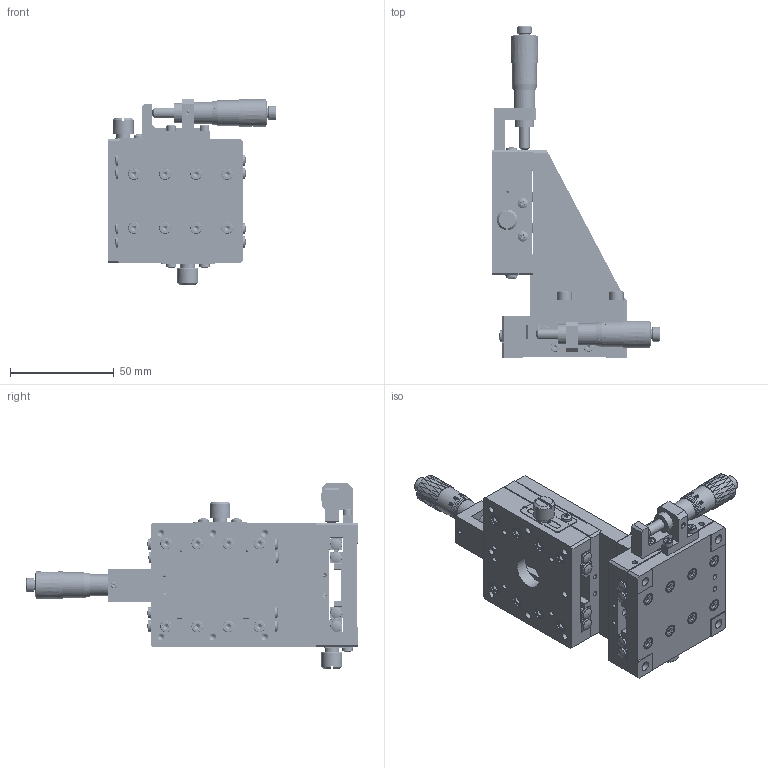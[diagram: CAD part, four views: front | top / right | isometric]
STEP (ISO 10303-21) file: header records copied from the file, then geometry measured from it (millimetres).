
FILE_DESCRIPTION (( 'STEP AP203' ), '1' );
FILE_NAME ('BVE60.STEP', '2024-07-23T12:55:25', ( 'Windows User' ), ( 'P R C' ), 'SwSTEP 2.0', 'SolidWorks 2024', '' );
FILE_SCHEMA (( 'CONFIG_CONTROL_DESIGN' ));
Products named in the file (1): BVE60
Bounding box: 81.1 x 160 x 89.4 mm (x, y, z)
Volume: 196366.2 mm3; surface area: 110810.2 mm2
Topology: 81 solids, 81 shells, 3890 faces, 9603 edges, 6151 vertices
Faces by surface type: plane 1816, bspline 806, cylinder 708, cone 508, torus 46, sphere 6
Full cylindrical faces by diameter (mm): 2 x44, 2.05 x24, 2.5 x38, 2.55 x32, 2.9 x2, 2.95 x18, 3 x38, 3.1 x4, 3.2 x3, 3.3 x24, 3.4 x32, 4 x8, 4.4 x32, 4.5 x22, 5 x10, 5.5 x34, 5.8 x2, 6 x32, 7 x12, 7.7 x4, 8 x8, 8.5 x2, 9.5 x4, 10 x2, 10.5 x2, 12.2 x2, 15 x2
Entity records: 172616 total; most frequent: CARTESIAN_POINT 92435, ORIENTED_EDGE 17044, DIRECTION 13375, EDGE_CURVE 8522, VERTEX_POINT 5889, EDGE_LOOP 5413, AXIS2_PLACEMENT_3D 4941, FACE_OUTER_BOUND 4343
